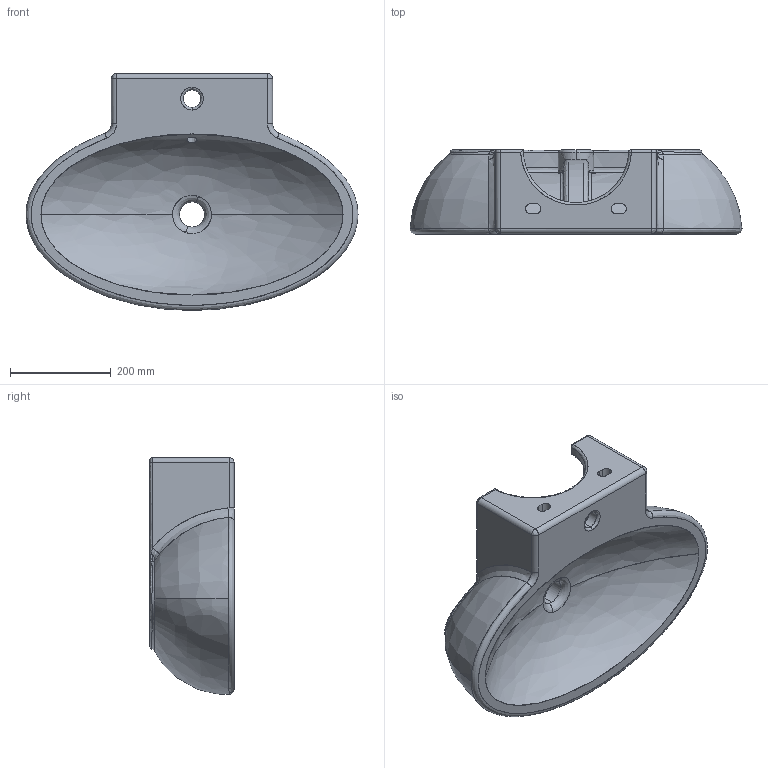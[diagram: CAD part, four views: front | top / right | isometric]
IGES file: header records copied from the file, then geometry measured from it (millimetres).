
Start section: Comment
Global section: file name: Planet ovale grande sospeso.igs; native system:  By UGS Corp.; preprocessor: XPlus GENERIC/IGES 3.0; author: Author; organization: Title; date: 20110617.152002; units: millimetre
Bounding box: 659.45 x 167 x 470.66 mm (x, y, z)
Surface area: 821897.5 mm2 (no closed solid volume)
Topology: 0 solids, 0 shells, 128 faces, 620 edges, 612 vertices
Faces by surface type: bspline 128
